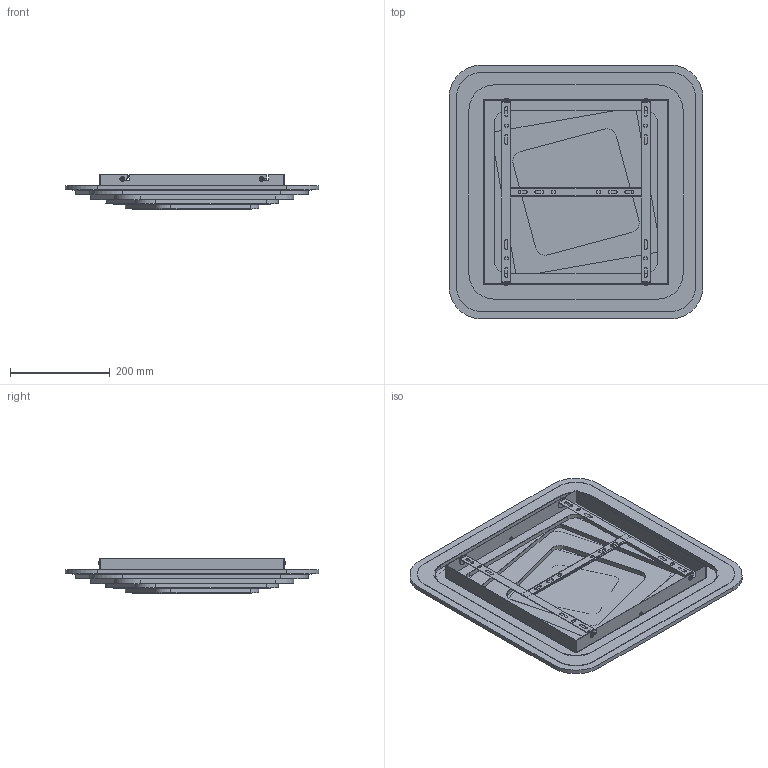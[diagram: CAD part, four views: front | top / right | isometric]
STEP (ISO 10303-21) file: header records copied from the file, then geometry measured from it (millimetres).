
FILE_DESCRIPTION(/* description */ (''),/* implementation_level */ '2;1');
FILE_NAME(/* name */ 'DC-LM-0101（VT-7958）.stp',/* time_stamp */ '2026-06-11T09:32:42+08:00',/* author */ (''),/* organization */ (''),/* preprocessor_version */ 'ST-DEVELOPER v16',/* originating_system */ 'SIEMENS PLM Software NX 10.0',/* authorisation */ '');
FILE_SCHEMA (('AP203_CONFIGURATION_CONTROLLED_3D_DESIGN_OF_MECHANICAL_PARTS_AND_ASSEMBLIES_MIM_LF { 1 0 10303 403 2 1 2}'));
Length unit declared in the file: millimetre
Products named in the file (1): 10E103D9Dfyu7
Bounding box: 510 x 510 x 70 mm (x, y, z)
Volume: 2776594.9 mm3; surface area: 1642447.9 mm2
Topology: 17 solids, 17 shells, 469 faces, 1258 edges, 832 vertices
Faces by surface type: plane 263, cylinder 170, bspline 16, cone 16, torus 4
Full cylindrical faces by diameter (mm): 3.5 x4, 6 x2, 7 x4, 9.6 x4
Entity records: 30222 total; most frequent: CARTESIAN_POINT 18290, ORIENTED_EDGE 2472, DIRECTION 2392, EDGE_CURVE 1236, VERTEX_POINT 828, AXIS2_PLACEMENT_3D 810, LINE 772, VECTOR 772
